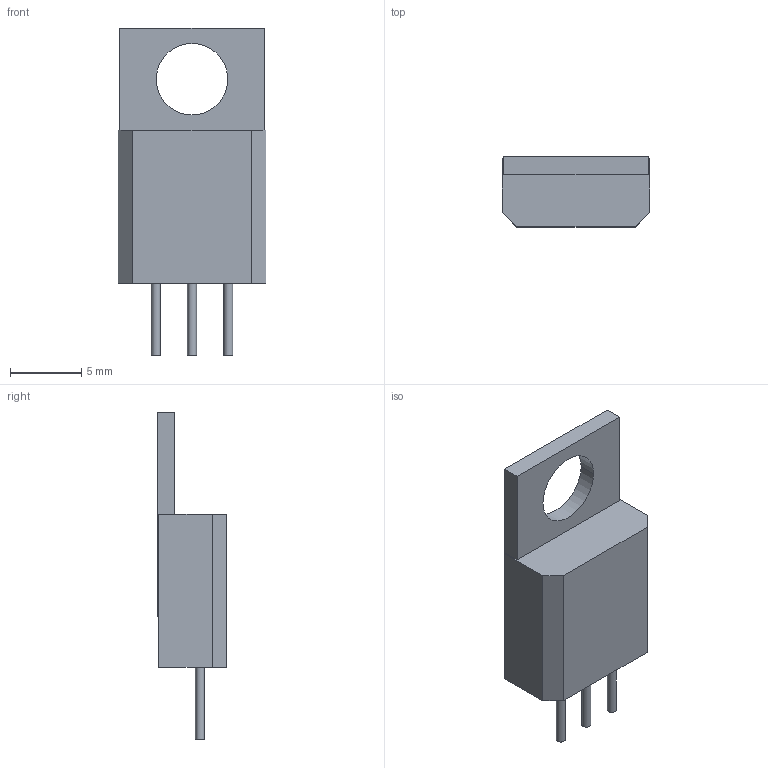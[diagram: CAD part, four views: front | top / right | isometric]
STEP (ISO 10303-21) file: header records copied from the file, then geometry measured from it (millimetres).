
FILE_DESCRIPTION(('STEP AP214'),'1');
FILE_NAME('TO220F_AOS','2025-09-26T09:51:12',(''),(''),'','','');
FILE_SCHEMA(('AUTOMOTIVE_DESIGN'));
Length unit declared in the file: millimetre
Products named in the file (1): product
Bounding box: 10.36 x 4.9 x 22.99 mm (x, y, z)
Volume: 599.2 mm3; surface area: 728.5 mm2
Topology: 5 solids, 5 shells, 31 faces, 61 edges, 40 vertices
Faces by surface type: plane 26, cylinder 5
Full cylindrical faces by diameter (mm): 0.635 x3
Entity records: 940 total; most frequent: DIRECTION 138, ORIENTED_EDGE 116, CARTESIAN_POINT 83, EDGE_CURVE 58, LINE 48, VECTOR 48, AXIS2_PLACEMENT_3D 45, VERTEX_POINT 40
